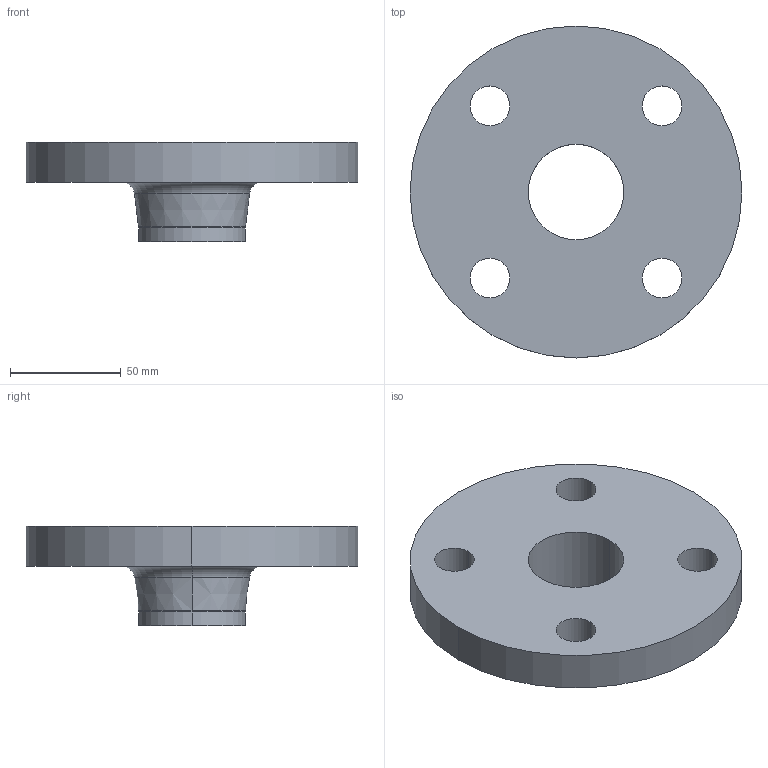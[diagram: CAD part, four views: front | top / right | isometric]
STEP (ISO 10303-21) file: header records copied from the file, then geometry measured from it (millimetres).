
FILE_DESCRIPTION (( 'STEP AP214' ), '1' );
FILE_NAME ('PN40 DN40 Type 11 - Type A Face.STEP', '2018-12-30T02:22:52', ( '' ), ( '' ), 'SwSTEP 2.0', 'SolidWorks 2019', '' );
FILE_SCHEMA (( 'AUTOMOTIVE_DESIGN' ));
Length unit declared in the file: millimetre
Products named in the file (1): PN40 DN40 Type 11 - Type A Face
Bounding box: 150 x 150 x 45 mm (x, y, z)
Volume: 288671.2 mm3; surface area: 52606.3 mm2
Topology: 1 solids, 1 shells, 23 faces, 54 edges, 34 vertices
Faces by surface type: cylinder 14, torus 4, plane 3, cone 2
Entity records: 732 total; most frequent: DIRECTION 140, CARTESIAN_POINT 112, ORIENTED_EDGE 108, AXIS2_PLACEMENT_3D 62, EDGE_CURVE 54, CIRCLE 38, VERTEX_POINT 34, EDGE_LOOP 34
